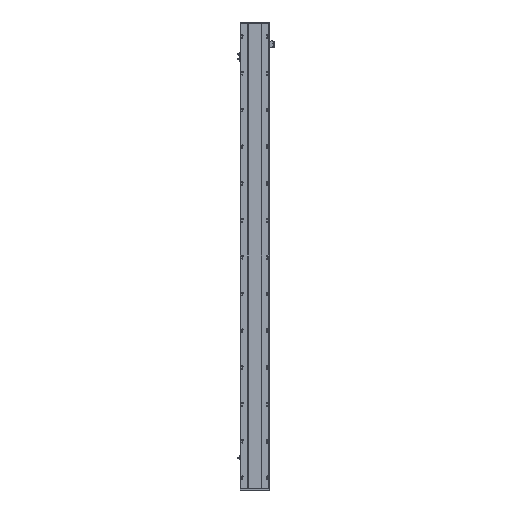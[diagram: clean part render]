
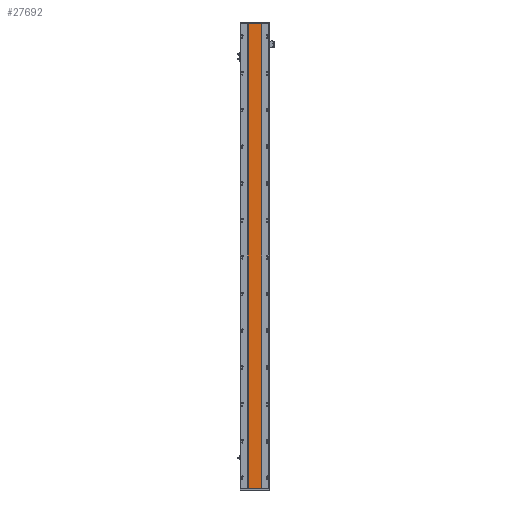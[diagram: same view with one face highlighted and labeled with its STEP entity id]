
A CAD part, front view. The second image highlights one B-rep face of the part: STEP entity #27692.
In plain terms, the highlighted planar face has unit normal (0, -1, 0).
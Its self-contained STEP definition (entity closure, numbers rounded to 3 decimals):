
#636 = EDGE_CURVE ( 'NONE', #30439, #29082, #43052, .T. ) ;
#688 = LINE ( 'NONE', #15063, #18213 ) ;
#1647 = CARTESIAN_POINT ( 'NONE',  ( 205.288, 16.9, 0. ) ) ;
#2693 = EDGE_LOOP ( 'NONE', ( #9088, #28714, #23117, #4631 ) ) ;
#4631 = ORIENTED_EDGE ( 'NONE', *, *, #31954, .T. ) ;
#4943 = CARTESIAN_POINT ( 'NONE',  ( 205.288, 16.9, 2728. ) ) ;
#6343 = VECTOR ( 'NONE', #16837, 1000. ) ;
#8231 = CARTESIAN_POINT ( 'NONE',  ( 205.288, 16.9, 0. ) ) ;
#8377 = DIRECTION ( 'NONE',  ( 1., 0., 0. ) ) ;
#9088 = ORIENTED_EDGE ( 'NONE', *, *, #13864, .T. ) ;
#13864 = EDGE_CURVE ( 'NONE', #27831, #29082, #14727, .T. ) ;
#14727 = LINE ( 'NONE', #8231, #25566 ) ;
#15063 = CARTESIAN_POINT ( 'NONE',  ( 129.288, 16.9, 2728. ) ) ;
#15756 = DIRECTION ( 'NONE',  ( 0., 0., -1. ) ) ;
#16837 = DIRECTION ( 'NONE',  ( 0., 0., -1. ) ) ;
#17238 = VERTEX_POINT ( 'NONE', #31475 ) ;
#18213 = VECTOR ( 'NONE', #32426, 1000. ) ;
#19308 = FACE_OUTER_BOUND ( 'NONE', #2693, .T. ) ;
#22191 = AXIS2_PLACEMENT_3D ( 'NONE', #4943, #32873, #39858 ) ;
#23117 = ORIENTED_EDGE ( 'NONE', *, *, #27589, .F. ) ;
#24373 = CARTESIAN_POINT ( 'NONE',  ( 129.288, 16.9, 2728. ) ) ;
#25566 = VECTOR ( 'NONE', #8377, 1000. ) ;
#25820 = PLANE ( 'NONE',  #22191 ) ;
#26225 = CARTESIAN_POINT ( 'NONE',  ( 205.288, 16.9, 2728. ) ) ;
#27217 = CARTESIAN_POINT ( 'NONE',  ( 129.288, 16.9, 0. ) ) ;
#27589 = EDGE_CURVE ( 'NONE', #17238, #30439, #688, .T. ) ;
#27692 = ADVANCED_FACE ( 'NONE', ( #19308 ), #25820, .F. ) ;
#27831 = VERTEX_POINT ( 'NONE', #27217 ) ;
#28714 = ORIENTED_EDGE ( 'NONE', *, *, #636, .F. ) ;
#29082 = VERTEX_POINT ( 'NONE', #1647 ) ;
#30439 = VERTEX_POINT ( 'NONE', #32048 ) ;
#31475 = CARTESIAN_POINT ( 'NONE',  ( 129.288, 16.9, 2728. ) ) ;
#31954 = EDGE_CURVE ( 'NONE', #17238, #27831, #43504, .T. ) ;
#32048 = CARTESIAN_POINT ( 'NONE',  ( 205.288, 16.9, 2728. ) ) ;
#32426 = DIRECTION ( 'NONE',  ( 1., 0., 0. ) ) ;
#32873 = DIRECTION ( 'NONE',  ( 0., 1., 0. ) ) ;
#39858 = DIRECTION ( 'NONE',  ( -1., 0., 0. ) ) ;
#42477 = VECTOR ( 'NONE', #15756, 1000. ) ;
#43052 = LINE ( 'NONE', #26225, #42477 ) ;
#43504 = LINE ( 'NONE', #24373, #6343 ) ;
